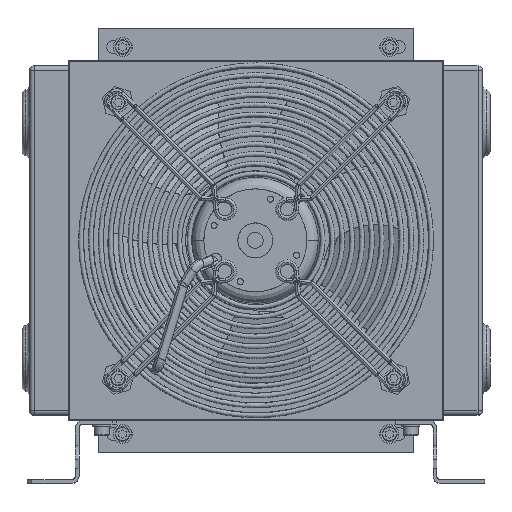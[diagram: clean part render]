
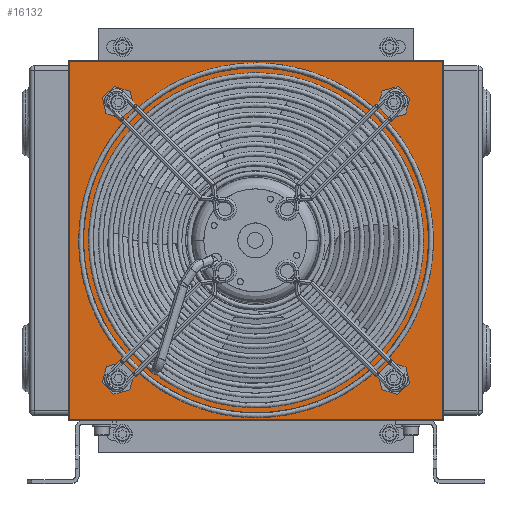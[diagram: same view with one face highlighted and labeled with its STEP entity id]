
A CAD part, top view. The second image highlights one B-rep face of the part: STEP entity #16132.
In plain terms, the highlighted planar face has unit normal (0, 0, 1).
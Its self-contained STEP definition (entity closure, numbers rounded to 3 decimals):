
#14577=CARTESIAN_POINT('',(148.288,150.825,123.));
#14578=VERTEX_POINT('',#14577);
#14588=CARTESIAN_POINT('',(-71.712,150.825,123.));
#14589=VERTEX_POINT('',#14588);
#14590=CARTESIAN_POINT('',(38.288,150.825,123.));
#14591=DIRECTION('',(0.0,0.0,1.0));
#14592=DIRECTION('',(1.0,0.,0.0));
#14593=AXIS2_PLACEMENT_3D('',#14590,#14591,#14592);
#14594=CIRCLE('',#14593,110.0);
#14595=EDGE_CURVE('',#14578,#14589,#14594,.T.);
#14597=CARTESIAN_POINT('',(38.288,150.825,123.));
#14598=DIRECTION('',(0.0,0.0,1.0));
#14599=DIRECTION('',(1.0,0.,0.0));
#14600=AXIS2_PLACEMENT_3D('',#14597,#14598,#14599);
#14601=CIRCLE('',#14600,110.0);
#14602=EDGE_CURVE('',#14589,#14578,#14601,.T.);
#14612=CARTESIAN_POINT('',(-50.136,242.749,123.));
#14613=VERTEX_POINT('',#14612);
#14623=CARTESIAN_POINT('',(-57.136,242.749,123.));
#14624=VERTEX_POINT('',#14623);
#14625=CARTESIAN_POINT('',(-53.636,242.749,123.));
#14626=DIRECTION('',(0.0,0.0,1.0));
#14627=DIRECTION('',(1.0,0.,0.0));
#14628=AXIS2_PLACEMENT_3D('',#14625,#14626,#14627);
#14629=CIRCLE('',#14628,3.5);
#14630=EDGE_CURVE('',#14613,#14624,#14629,.T.);
#14632=CARTESIAN_POINT('',(-53.636,242.749,123.));
#14633=DIRECTION('',(0.0,0.0,1.0));
#14634=DIRECTION('',(1.0,0.,0.0));
#14635=AXIS2_PLACEMENT_3D('',#14632,#14633,#14634);
#14636=CIRCLE('',#14635,3.5);
#14637=EDGE_CURVE('',#14624,#14613,#14636,.T.);
#14647=CARTESIAN_POINT('',(130.211,239.249,123.));
#14648=VERTEX_POINT('',#14647);
#14658=CARTESIAN_POINT('',(130.211,246.249,123.));
#14659=VERTEX_POINT('',#14658);
#14660=CARTESIAN_POINT('',(130.211,242.749,123.));
#14661=DIRECTION('',(0.0,0.0,1.0));
#14662=DIRECTION('',(0.,-1.0,0.0));
#14663=AXIS2_PLACEMENT_3D('',#14660,#14661,#14662);
#14664=CIRCLE('',#14663,3.5);
#14665=EDGE_CURVE('',#14648,#14659,#14664,.T.);
#14667=CARTESIAN_POINT('',(130.211,242.749,123.));
#14668=DIRECTION('',(0.0,0.0,1.0));
#14669=DIRECTION('',(0.,-1.0,0.0));
#14670=AXIS2_PLACEMENT_3D('',#14667,#14668,#14669);
#14671=CIRCLE('',#14670,3.5);
#14672=EDGE_CURVE('',#14659,#14648,#14671,.T.);
#14682=CARTESIAN_POINT('',(126.711,58.901,123.));
#14683=VERTEX_POINT('',#14682);
#14693=CARTESIAN_POINT('',(133.711,58.901,123.));
#14694=VERTEX_POINT('',#14693);
#14695=CARTESIAN_POINT('',(130.211,58.901,123.));
#14696=DIRECTION('',(0.0,0.0,1.0));
#14697=DIRECTION('',(-1.0,0.,0.0));
#14698=AXIS2_PLACEMENT_3D('',#14695,#14696,#14697);
#14699=CIRCLE('',#14698,3.5);
#14700=EDGE_CURVE('',#14683,#14694,#14699,.T.);
#14702=CARTESIAN_POINT('',(130.211,58.901,123.));
#14703=DIRECTION('',(0.0,0.0,1.0));
#14704=DIRECTION('',(-1.0,0.,0.0));
#14705=AXIS2_PLACEMENT_3D('',#14702,#14703,#14704);
#14706=CIRCLE('',#14705,3.5);
#14707=EDGE_CURVE('',#14694,#14683,#14706,.T.);
#14717=CARTESIAN_POINT('',(-53.636,62.401,123.));
#14718=VERTEX_POINT('',#14717);
#14728=CARTESIAN_POINT('',(-53.636,55.401,123.));
#14729=VERTEX_POINT('',#14728);
#14730=CARTESIAN_POINT('',(-53.636,58.901,123.));
#14731=DIRECTION('',(0.0,0.0,1.0));
#14732=DIRECTION('',(0.,1.0,0.0));
#14733=AXIS2_PLACEMENT_3D('',#14730,#14731,#14732);
#14734=CIRCLE('',#14733,3.5);
#14735=EDGE_CURVE('',#14718,#14729,#14734,.T.);
#14737=CARTESIAN_POINT('',(-53.636,58.901,123.));
#14738=DIRECTION('',(0.0,0.0,1.0));
#14739=DIRECTION('',(0.,1.0,0.0));
#14740=AXIS2_PLACEMENT_3D('',#14737,#14738,#14739);
#14741=CIRCLE('',#14740,3.5);
#14742=EDGE_CURVE('',#14729,#14718,#14741,.T.);
#15708=CARTESIAN_POINT('',(162.788,31.325,123.));
#15709=VERTEX_POINT('',#15708);
#15710=CARTESIAN_POINT('',(-86.212,31.325,123.));
#15711=VERTEX_POINT('',#15710);
#15712=CARTESIAN_POINT('',(162.788,31.325,123.));
#15713=DIRECTION('',(-1.0,0.0,0.0));
#15714=VECTOR('',#15713,249.);
#15715=LINE('',#15712,#15714);
#15716=EDGE_CURVE('',#15709,#15711,#15715,.T.);
#15748=CARTESIAN_POINT('',(-86.212,270.325,123.));
#15749=VERTEX_POINT('',#15748);
#15772=CARTESIAN_POINT('',(-86.212,31.325,123.));
#15773=DIRECTION('',(0.0,1.0,0.0));
#15774=VECTOR('',#15773,239.);
#15775=LINE('',#15772,#15774);
#15776=EDGE_CURVE('',#15711,#15749,#15775,.T.);
#15828=CARTESIAN_POINT('',(162.788,270.325,123.));
#15829=VERTEX_POINT('',#15828);
#15837=CARTESIAN_POINT('',(162.788,270.325,123.));
#15838=DIRECTION('',(0.0,-1.0,0.0));
#15839=VECTOR('',#15838,239.);
#15840=LINE('',#15837,#15839);
#15841=EDGE_CURVE('',#15829,#15709,#15840,.T.);
#15926=CARTESIAN_POINT('',(-86.212,270.325,123.));
#15927=DIRECTION('',(1.0,0.0,0.0));
#15928=VECTOR('',#15927,249.);
#15929=LINE('',#15926,#15928);
#15930=EDGE_CURVE('',#15749,#15829,#15929,.T.);
#16101=CARTESIAN_POINT('',(-111.712,294.825,123.));
#16102=DIRECTION('',(0.0,0.0,-1.0));
#16103=DIRECTION('',(1.0,0.0,0.0));
#16104=AXIS2_PLACEMENT_3D('',#16101,#16102,#16103);
#16105=PLANE('',#16104);
#16106=ORIENTED_EDGE('',*,*,#15930,.F.);
#16107=ORIENTED_EDGE('',*,*,#15776,.F.);
#16108=ORIENTED_EDGE('',*,*,#15716,.F.);
#16109=ORIENTED_EDGE('',*,*,#15841,.F.);
#16110=EDGE_LOOP('',(#16106,#16107,#16108,#16109));
#16111=FACE_OUTER_BOUND('',#16110,.T.);
#16112=ORIENTED_EDGE('',*,*,#14602,.F.);
#16113=ORIENTED_EDGE('',*,*,#14595,.F.);
#16114=EDGE_LOOP('',(#16112,#16113));
#16115=FACE_BOUND('',#16114,.T.);
#16116=ORIENTED_EDGE('',*,*,#14637,.F.);
#16117=ORIENTED_EDGE('',*,*,#14630,.F.);
#16118=EDGE_LOOP('',(#16116,#16117));
#16119=FACE_BOUND('',#16118,.T.);
#16120=ORIENTED_EDGE('',*,*,#14672,.F.);
#16121=ORIENTED_EDGE('',*,*,#14665,.F.);
#16122=EDGE_LOOP('',(#16120,#16121));
#16123=FACE_BOUND('',#16122,.T.);
#16124=ORIENTED_EDGE('',*,*,#14707,.F.);
#16125=ORIENTED_EDGE('',*,*,#14700,.F.);
#16126=EDGE_LOOP('',(#16124,#16125));
#16127=FACE_BOUND('',#16126,.T.);
#16128=ORIENTED_EDGE('',*,*,#14742,.F.);
#16129=ORIENTED_EDGE('',*,*,#14735,.F.);
#16130=EDGE_LOOP('',(#16128,#16129));
#16131=FACE_BOUND('',#16130,.T.);
#16132=ADVANCED_FACE('',(#16111,#16115,#16119,#16123,#16127,#16131),#16105,.F.);
